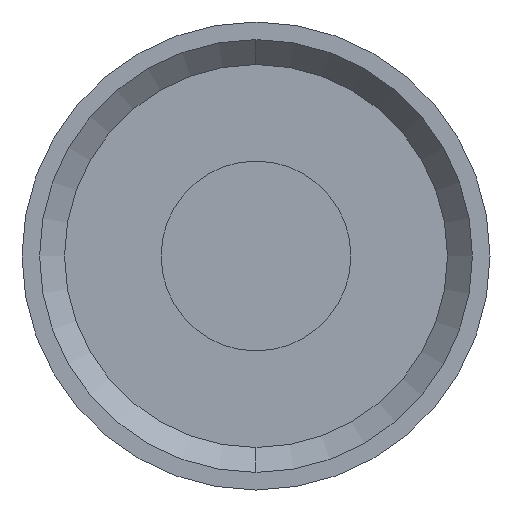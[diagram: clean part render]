
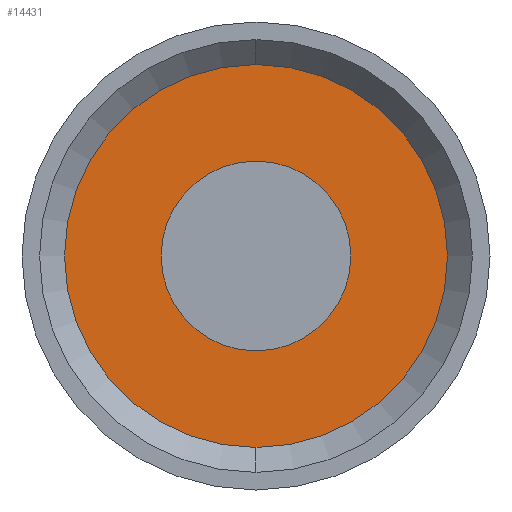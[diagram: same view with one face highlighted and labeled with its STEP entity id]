
A CAD part, left-side view. The second image highlights one B-rep face of the part: STEP entity #14431.
In plain terms, the highlighted planar face has unit normal (-1, 0, 0).
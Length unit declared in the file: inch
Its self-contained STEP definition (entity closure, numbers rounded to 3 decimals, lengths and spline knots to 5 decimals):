
#127 = CARTESIAN_POINT ( 'NONE',  ( 0., 0., 0.057 ) ) ;
#1159 = CARTESIAN_POINT ( 'NONE',  ( 0., 0., 0. ) ) ;
#2463 = VERTEX_POINT ( 'NONE', #15532 ) ;
#2799 = CARTESIAN_POINT ( 'NONE',  ( 0., 0., 0. ) ) ;
#3834 = CIRCLE ( 'NONE', #10667, 0.057 ) ;
#4133 = VERTEX_POINT ( 'NONE', #16992 ) ;
#4362 = DIRECTION ( 'NONE',  ( 0., 0., 1. ) ) ;
#5149 = CARTESIAN_POINT ( 'NONE',  ( 0., 0., 0. ) ) ;
#5872 = DIRECTION ( 'NONE',  ( -1., 0., 0. ) ) ;
#6989 = AXIS2_PLACEMENT_3D ( 'NONE', #1159, #13542, #18144 ) ;
#7614 = ORIENTED_EDGE ( 'NONE', *, *, #13719, .T. ) ;
#8379 = CIRCLE ( 'NONE', #18955, 0.115 ) ;
#8666 = ORIENTED_EDGE ( 'NONE', *, *, #9506, .F. ) ;
#8801 = EDGE_LOOP ( 'NONE', ( #12876, #8666 ) ) ;
#8934 = CARTESIAN_POINT ( 'NONE',  ( 0., 0., 0. ) ) ;
#9190 = CARTESIAN_POINT ( 'NONE',  ( 0., 0., -0.115 ) ) ;
#9506 = EDGE_CURVE ( 'NONE', #2463, #14862, #10521, .T. ) ;
#9536 = DIRECTION ( 'NONE',  ( 0., 0., 1. ) ) ;
#10521 = CIRCLE ( 'NONE', #6989, 0.057 ) ;
#10667 = AXIS2_PLACEMENT_3D ( 'NONE', #8934, #18000, #4362 ) ;
#11190 = ORIENTED_EDGE ( 'NONE', *, *, #19477, .T. ) ;
#12737 = FACE_BOUND ( 'NONE', #8801, .T. ) ;
#12876 = ORIENTED_EDGE ( 'NONE', *, *, #15996, .F. ) ;
#13542 = DIRECTION ( 'NONE',  ( -1., 0., 0. ) ) ;
#13719 = EDGE_CURVE ( 'NONE', #4133, #19678, #8379, .T. ) ;
#14003 = DIRECTION ( 'NONE',  ( -1., 0., 0. ) ) ;
#14090 = CARTESIAN_POINT ( 'NONE',  ( 0., 0., 0. ) ) ;
#14256 = PLANE ( 'NONE',  #15460 ) ;
#14431 = ADVANCED_FACE ( 'NONE', ( #12737, #18750 ), #14256, .F. ) ;
#14856 = DIRECTION ( 'NONE',  ( 0., 0., 1. ) ) ;
#14862 = VERTEX_POINT ( 'NONE', #127 ) ;
#15460 = AXIS2_PLACEMENT_3D ( 'NONE', #5149, #18843, #19058 ) ;
#15532 = CARTESIAN_POINT ( 'NONE',  ( 0., 0., -0.057 ) ) ;
#15996 = EDGE_CURVE ( 'NONE', #14862, #2463, #3834, .T. ) ;
#16118 = EDGE_LOOP ( 'NONE', ( #7614, #11190 ) ) ;
#16992 = CARTESIAN_POINT ( 'NONE',  ( 0., 0., 0.115 ) ) ;
#18000 = DIRECTION ( 'NONE',  ( -1., 0., 0. ) ) ;
#18144 = DIRECTION ( 'NONE',  ( 0., 0., 1. ) ) ;
#18750 = FACE_OUTER_BOUND ( 'NONE', #16118, .T. ) ;
#18843 = DIRECTION ( 'NONE',  ( 1., 0., 0. ) ) ;
#18906 = AXIS2_PLACEMENT_3D ( 'NONE', #2799, #5872, #14856 ) ;
#18955 = AXIS2_PLACEMENT_3D ( 'NONE', #14090, #14003, #9536 ) ;
#19058 = DIRECTION ( 'NONE',  ( 0., 0., -1. ) ) ;
#19477 = EDGE_CURVE ( 'NONE', #19678, #4133, #19905, .T. ) ;
#19678 = VERTEX_POINT ( 'NONE', #9190 ) ;
#19905 = CIRCLE ( 'NONE', #18906, 0.115 ) ;
